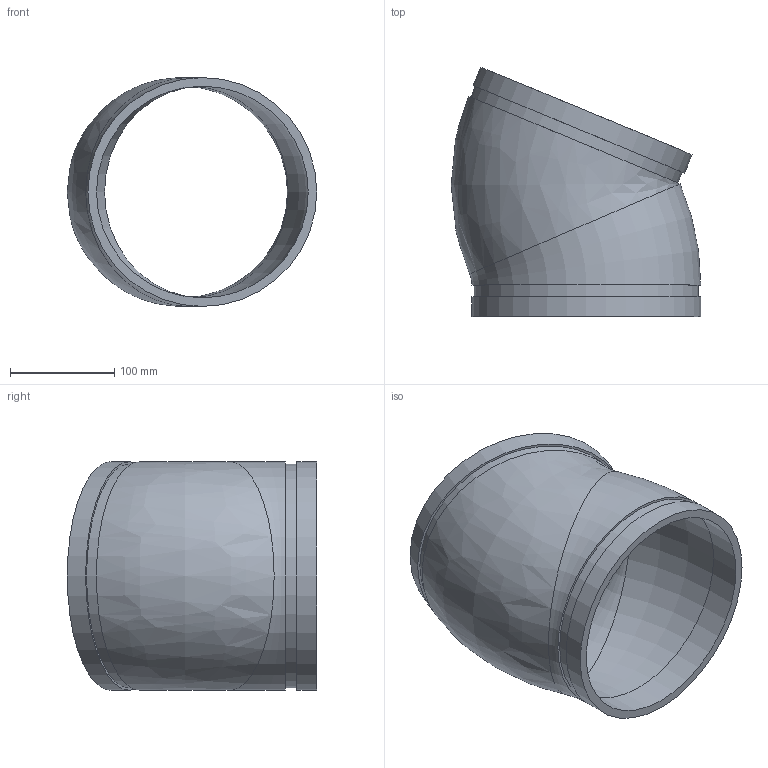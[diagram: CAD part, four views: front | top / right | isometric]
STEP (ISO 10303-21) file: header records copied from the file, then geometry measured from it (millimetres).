
FILE_DESCRIPTION(/* description */ ('VIC ELBOW 22 1/2 DEG GOOSENECK No 12 (OGS)','CAx-IF Rec.Pracs.---Representation and Presentation of Product Manufacturing Information (PMI)---4.0---2014-10-13'),/* implementation_level */ '2;1');
FILE_NAME(/* name */ 'C:\Users\Vjadhav\Desktop\CAD for Inventor\1\12\STEP\Victaulic_IPS_Elbow 22.5 Deg Gooseneck_No 12 (OGS)\Victaulic_IPS_Elbow 22.5 Deg Gooseneck_No 12 (OGS)_8 (200).stp',/* time_stamp */ '2021-12-22T09:18:44+06:00',/* author */ ('Aayare'),/* organization */ ('Victaulic'),/* preprocessor_version */ 'ST-DEVELOPER v17.2',/* originating_system */ 'Autodesk Inventor 2019',/* authorisation */ '');
FILE_SCHEMA (('AP242_MANAGED_MODEL_BASED_3D_ENGINEERING_MIM_LF { 1 0 10303 442 1 1 4 }'));
Length unit declared in the file: inch
Products named in the file (1): GN12-08.0
Bounding box: 238.96 x 238.77 x 219.07 mm (x, y, z)
Volume: 1094122.4 mm3; surface area: 285949.6 mm2
Topology: 1 solids, 1 shells, 16 faces, 43 edges, 31 vertices
Faces by surface type: plane 6, cylinder 6, torus 3, bspline 1
Full cylindrical faces by diameter (mm): 202.717 x2, 214.401 x2, 219.075 x2
Entity records: 702 total; most frequent: DIRECTION 134, CARTESIAN_POINT 132, ORIENTED_EDGE 82, AXIS2_PLACEMENT_3D 64, EDGE_CURVE 41, CIRCLE 35, VERTEX_POINT 31, EDGE_LOOP 22
